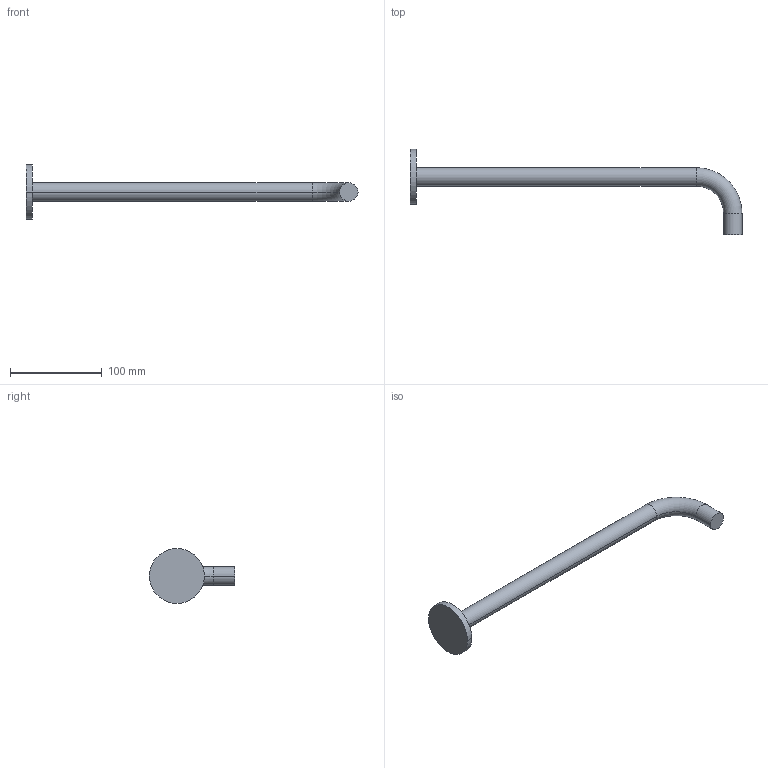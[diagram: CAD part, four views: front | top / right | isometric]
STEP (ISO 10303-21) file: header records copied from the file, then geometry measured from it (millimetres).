
FILE_DESCRIPTION((''),'2;1');
FILE_NAME('26_000_800_XXX','2012-01-13T',('hpf'),(''),'PRO/ENGINEER BY PARAMETRIC TECHNOLOGY CORPORATION, 2011080','PRO/ENGINEER BY PARAMETRIC TECHNOLOGY CORPORATION, 2011080','');
FILE_SCHEMA(('AUTOMOTIVE_DESIGN_CC2 { 1 2 10303 214 -1 1 5 2 }'));
Length unit declared in the file: millimetre
Products named in the file (1): 26_000_800_XXX
Bounding box: 362 x 93 x 60 mm (x, y, z)
Volume: 142575.5 mm3; surface area: 31531 mm2
Topology: 1 solids, 1 shells, 11 faces, 20 edges, 12 vertices
Faces by surface type: cylinder 6, plane 3, torus 2
Entity records: 329 total; most frequent: DIRECTION 56, CARTESIAN_POINT 43, ORIENTED_EDGE 40, COLOUR_RGB 39, AXIS2_PLACEMENT_3D 25, EDGE_CURVE 20, CIRCLE 14, VERTEX_POINT 12
